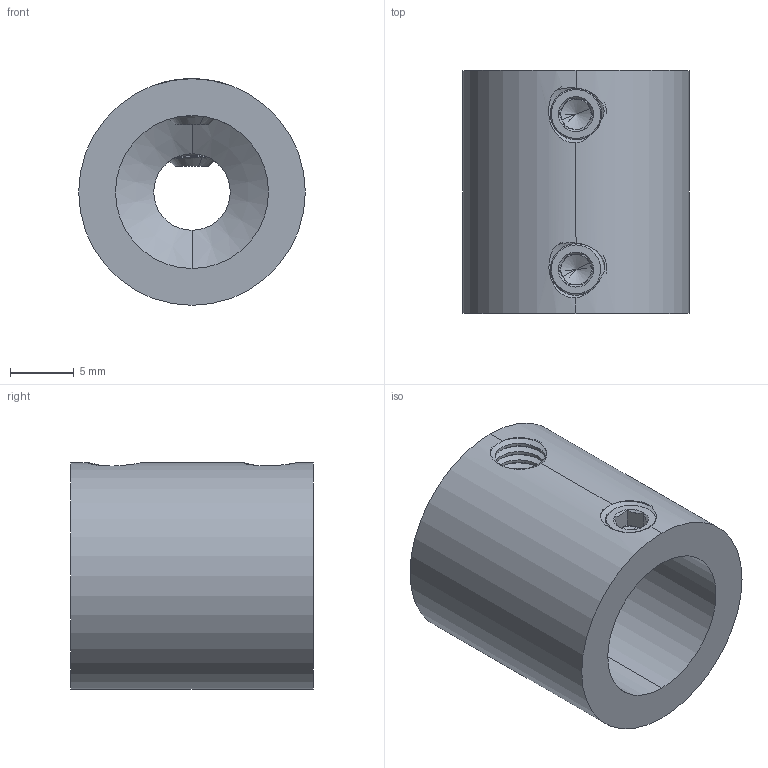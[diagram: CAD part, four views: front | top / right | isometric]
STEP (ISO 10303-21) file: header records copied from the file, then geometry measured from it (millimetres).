
FILE_DESCRIPTION (( 'STEP AP203' ), '1' );
FILE_NAME ('625242 assembly.STEP', '2016-08-26T16:19:41', ( '' ), ( '' ), 'SwSTEP 2.0', 'SolidWorks 2014', '' );
FILE_SCHEMA (( 'CONFIG_CONTROL_DESIGN' ));
Length unit declared in the file: inch
Products named in the file (3): 625242; 625242 assembly; 632134_91375A436
Assembly tree (3 placements, depth 2):
  625242 assembly
    625242
    632134_91375A436  x2
Bounding box: 17.78 x 19.05 x 17.78 mm (x, y, z)
Volume: 3244.7 mm3; surface area: 2357.8 mm2
Topology: 3 solids, 3 shells, 163 faces, 439 edges, 272 vertices
Faces by surface type: cylinder 86, cone 34, plane 28, bspline 15
Entity records: 8971 total; most frequent: CARTESIAN_POINT 6024, ORIENTED_EDGE 694, DIRECTION 405, EDGE_CURVE 347, VERTEX_POINT 223, AXIS2_PLACEMENT_3D 151, EDGE_LOOP 128, FACE_OUTER_BOUND 125
